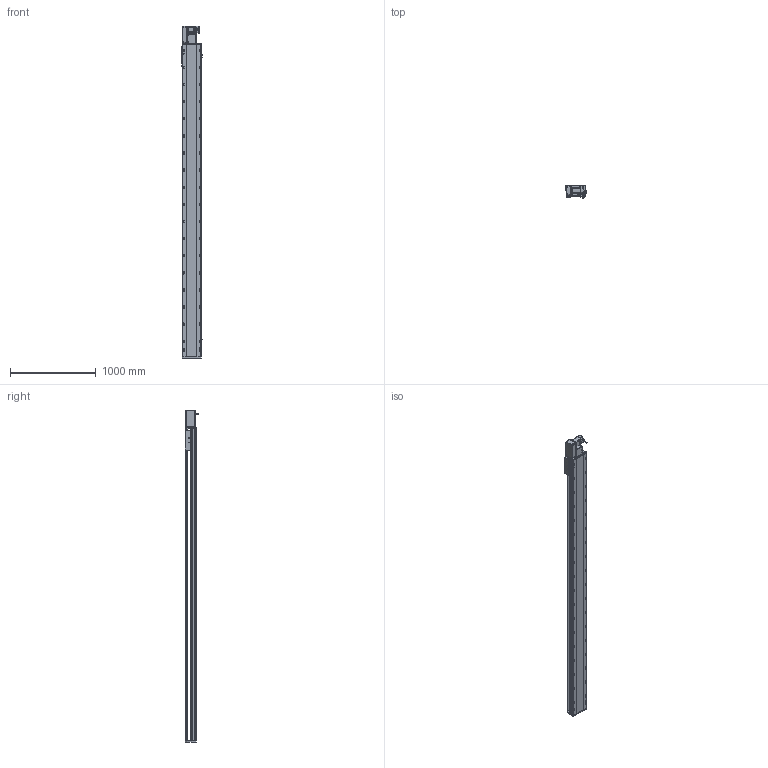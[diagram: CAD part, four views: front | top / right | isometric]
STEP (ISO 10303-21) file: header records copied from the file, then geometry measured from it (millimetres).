
FILE_DESCRIPTION (( 'STEP AP214' ), '1' );
FILE_NAME ('RTB22S-XX-3300-L-M75-C4.STEP', '2025-12-12T03:34:23', ( '' ), ( '' ), 'SwSTEP 2.0', 'SolidWorks 2018', '' );
FILE_SCHEMA (( 'AUTOMOTIVE_DESIGN' ));
Length unit declared in the file: millimetre
Products named in the file (14): RTB22S-GY-001耜裔^RTB22S-XX-XX-L-M75-C4; 750W萇儂^RTB22S-XX-XX-L-M75-C4; RTB22S-GY-007奻裔^RTB22S-XX-XX-L-M75-C4; RTB22S-L-011菁釱^RTB22S-XX-XX-L-M75-C4; RTB22S-L-004賑釱^RTB22S-XX-XX-L-M75-C4; RTB22S-GY-005P^RTB22S-L-々湍釱蚾饜_RTB22S-XX-XX-L-M75-C4; RTB22S-GY-014--々湍釱^RTB22S-L-々湍釱蚾饜_RTB22S-XX-XX-L-M75-C4; OMRON EE-SX672 传感器^RTB22S-XX-XX-L-M75-C4; RTB22S-L-々湍釱蚾饜^RTB22S-XX-XX-L-M75-C4; RTB22S-XX-3300-L-M75-C4; RTB22S-GY-018P^RTB22S-L-々湍釱蚾饜_RTB22S-XX-XX-L-M75-C4; RTH22-GY-013外置感应片^RTB22S-XX-XX-L-M75-C4; RTB22S-GY-017P^RTB22S-L-々湍釱蚾饜_RTB22S-XX-XX-L-M75-C4; RTB22S-GY-008-M75--萇儂啣^RTB22S-L-々湍釱蚾饜_RTB22S-XX-XX-L-M75-C4
Assembly tree (16 placements, depth 3):
  RTB22S-XX-3300-L-M75-C4
    RTB22S-L-011菁釱^RTB22S-XX-XX-L-M75-C4
    750W萇儂^RTB22S-XX-XX-L-M75-C4
    RTB22S-L-004賑釱^RTB22S-XX-XX-L-M75-C4
    OMRON EE-SX672 传感器^RTB22S-XX-XX-L-M75-C4  x3
    RTH22-GY-013外置感应片^RTB22S-XX-XX-L-M75-C4
    RTB22S-GY-007奻裔^RTB22S-XX-XX-L-M75-C4
    RTB22S-GY-001耜裔^RTB22S-XX-XX-L-M75-C4
    RTB22S-L-々湍釱蚾饜^RTB22S-XX-XX-L-M75-C4
      RTB22S-GY-014--々湍釱^RTB22S-L-々湍釱蚾饜_RTB22S-XX-XX-L-M75-C4
      RTB22S-GY-017P^RTB22S-L-々湍釱蚾饜_RTB22S-XX-XX-L-M75-C4  x2
      RTB22S-GY-005P^RTB22S-L-々湍釱蚾饜_RTB22S-XX-XX-L-M75-C4
      RTB22S-GY-008-M75--萇儂啣^RTB22S-L-々湍釱蚾饜_RTB22S-XX-XX-L-M75-C4
      RTB22S-GY-018P^RTB22S-L-々湍釱蚾饜_RTB22S-XX-XX-L-M75-C4
Bounding box: 238.5 x 162.7 x 3879 mm (x, y, z)
Volume: 48082528.8 mm3; surface area: 4896324.8 mm2
Topology: 15 solids, 15 shells, 2181 faces, 5936 edges, 3782 vertices
Faces by surface type: plane 937, cylinder 754, bspline 296, cone 182, sphere 8, torus 4
Entity records: 60006 total; most frequent: CARTESIAN_POINT 16800, ORIENTED_EDGE 8572, DIRECTION 8440, EDGE_CURVE 4286, AXIS2_PLACEMENT_3D 3050, VERTEX_POINT 2786, LINE 2340, VECTOR 2340
